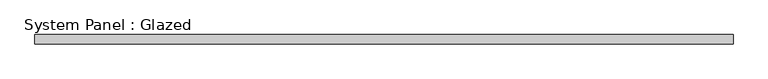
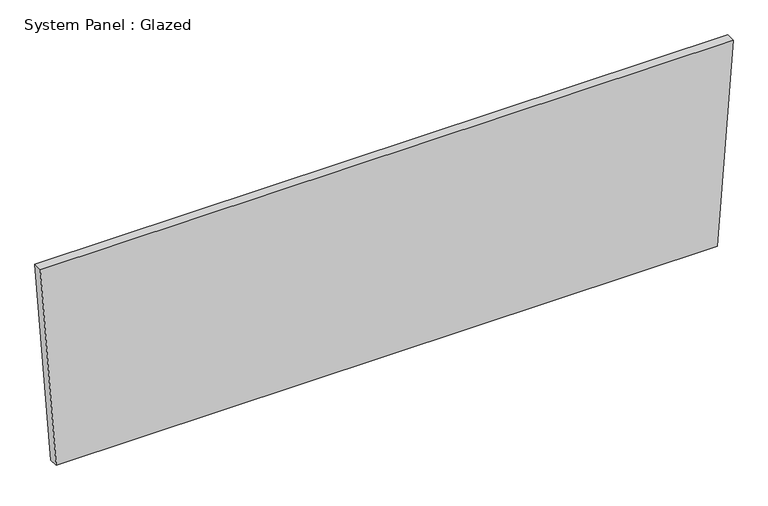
"""IFC4 building model written with IfcOpenShell, lengths in millimetres: plate geometry, System Panel : Glazed."""

import ifcopenshell
import ifcopenshell.guid

model = None  # the IFC model being written
_history = None  # IfcOwnerHistory: only IFC2X3 demands one
_inside = {}  # id of a spatial element -> (the spatial element, [elements in it])
_under = {}  # id of a project, library or spatial element -> (it, [spatial elements below it])
_declared = {}  # id of a project -> (the project, [libraries it declares])
_typed = {}  # id of a type object -> (the type object, [elements of that type])
_made_of = {}  # id of a material, layer set ... -> (it, [elements and type objects made of it])


def new_model(schema):
    """Start an empty IFC model of exactly this schema.

    Asked for "IFC4X3", IfcOpenShell would pick the latest addendum, in which some entities
    have other attributes; the version numbers below select the first issue.
    IFC2X3 requires an IfcOwnerHistory on every rooted entity: one is made here for all.
    """
    global model, _history
    if schema == "IFC4X3":
        model = ifcopenshell.file(schema_version=(4, 3, 0, 0))
    else:
        model = ifcopenshell.file(schema=schema)
    _inside.clear()
    _under.clear()
    _declared.clear()
    _typed.clear()
    _made_of.clear()
    _history = None
    if model.schema == "IFC2X3":
        org = make("IfcOrganization", Name="unknown")
        user = make(
            "IfcPersonAndOrganization",
            ThePerson=make("IfcPerson", FamilyName="unknown"),
            TheOrganization=org,
        )
        app = make(
            "IfcApplication",
            ApplicationDeveloper=org,
            Version="unknown",
            ApplicationFullName="unknown",
            ApplicationIdentifier="unknown",
        )
        _history = make(
            "IfcOwnerHistory",
            OwningUser=user,
            OwningApplication=app,
            ChangeAction="ADDED",
            CreationDate=0,
        )
    return model


def make(cls, **values):
    """One entity of the class cls with the attributes given. An attribute that is None is left unset."""
    return model.create_entity(
        cls, **{name: value for name, value in values.items() if value is not None}
    )


def rooted(cls, **values):
    """An entity with a GlobalId (a new one), such as an element, a storey or a relation."""
    return make(cls, GlobalId=ifcopenshell.guid.new(), OwnerHistory=_history, **values)


def si_unit(unit_type, name, prefix=None):
    """IfcSIUnit, for example si_unit("LENGTHUNIT", "METRE", prefix="MILLI")."""
    return make("IfcSIUnit", UnitType=unit_type, Prefix=prefix, Name=name)


def assignment(units):
    """IfcUnitAssignment: the units of a project."""
    return None if units is None else make("IfcUnitAssignment", Units=units)


def point(xyz):
    """IfcCartesianPoint."""
    return None if xyz is None else make("IfcCartesianPoint", Coordinates=xyz)


def direction(xyz):
    """IfcDirection."""
    return None if xyz is None else make("IfcDirection", DirectionRatios=xyz)


def frame(location, z_axis=None, x_axis=None):
    """IfcAxis2Placement3D, a coordinate frame: its origin and axes. An axis left out is left unset."""
    return make(
        "IfcAxis2Placement3D",
        Location=point(location),
        Axis=direction(z_axis),
        RefDirection=direction(x_axis),
    )


def origin():
    """The frame at (0, 0, 0) with its axes left unset."""
    return frame((0.0, 0.0, 0.0))


def place(relative_to, where):
    """IfcLocalPlacement: puts the frame where relative to a parent placement (None: the world)."""
    return make(
        "IfcLocalPlacement", PlacementRelTo=relative_to, RelativePlacement=where
    )


def context(
    kind, dimensions, precision=None, world=None, true_north=None, identifier=None
):
    """IfcGeometricRepresentationContext, for example the 3D "Model" context."""
    return make(
        "IfcGeometricRepresentationContext",
        ContextIdentifier=identifier,
        ContextType=kind,
        CoordinateSpaceDimension=dimensions,
        Precision=precision,
        WorldCoordinateSystem=world,
        TrueNorth=true_north,
    )


def project(units=None, contexts=None):
    """IfcProject with its units and contexts."""
    return rooted(
        "IfcProject",
        Name="project",
        RepresentationContexts=contexts,
        UnitsInContext=assignment(units),
    )


def spatial(cls, under=None, at=None, **own):
    """A site, building, storey or space (cls), placed at a placement, below another one or the project."""
    s = rooted(cls, ObjectPlacement=at, **own)
    if under is not None:
        _under.setdefault(under.id(), (under, []))[1].append(s)
    return s


def polyline(points):
    """IfcPolyline through the points."""
    return make("IfcPolyline", Points=[point(p) for p in points])


def outline(outer, holes=None, kind="AREA"):
    """IfcArbitraryClosedProfileDef: a profile drawn as a closed curve; with holes, ...WithVoids."""
    if holes is None:
        return make("IfcArbitraryClosedProfileDef", ProfileType=kind, OuterCurve=outer)
    return make(
        "IfcArbitraryProfileDefWithVoids",
        ProfileType=kind,
        OuterCurve=outer,
        InnerCurves=holes,
    )


def extrude(swept, where, along, depth):
    """IfcExtrudedAreaSolid: the profile swept, set in the frame where, extruded along a direction by depth."""
    return make(
        "IfcExtrudedAreaSolid",
        SweptArea=swept,
        Position=where,
        ExtrudedDirection=direction(along),
        Depth=depth,
    )


def shape(context_of_items, identifier, shape_type, items):
    """IfcShapeRepresentation: the items that make up one representation, for example the "Body"."""
    return make(
        "IfcShapeRepresentation",
        ContextOfItems=context_of_items,
        RepresentationIdentifier=identifier,
        RepresentationType=shape_type,
        Items=items,
    )


def source(mapping_origin, context_of_items, identifier, shape_type, items):
    """IfcRepresentationMap: a shape defined once, which mapped items show again and again."""
    return make(
        "IfcRepresentationMap",
        MappingOrigin=mapping_origin,
        MappedRepresentation=shape(context_of_items, identifier, shape_type, items),
    )


def transform(
    local_origin,
    x_axis=None,
    y_axis=None,
    z_axis=None,
    scale=None,
    scale2=None,
    scale3=None,
    uniform=True,
):
    """IfcCartesianTransformationOperator3D, or its non-uniform kind. x_axis, y_axis, z_axis: its Axis1, 2, 3."""
    if uniform:
        return make(
            "IfcCartesianTransformationOperator3D",
            Axis1=direction(x_axis),
            Axis2=direction(y_axis),
            LocalOrigin=point(local_origin),
            Scale=scale,
            Axis3=direction(z_axis),
        )
    return make(
        "IfcCartesianTransformationOperator3DnonUniform",
        Axis1=direction(x_axis),
        Axis2=direction(y_axis),
        LocalOrigin=point(local_origin),
        Scale=scale,
        Axis3=direction(z_axis),
        Scale2=scale2,
        Scale3=scale3,
    )


def mapped(mapping_source, mapping_target):
    """IfcMappedItem: shows the shape of a source again, moved by a transform."""
    return make(
        "IfcMappedItem", MappingSource=mapping_source, MappingTarget=mapping_target
    )


def made_of(thing, what):
    """Note that an element or type object is made of a material, layer set ...; save() writes the relation."""
    if what is not None:
        _made_of.setdefault(what.id(), (what, []))[1].append(thing)
    return thing


def element(
    cls,
    number,
    at=None,
    inside=None,
    cuts=None,
    type_object=None,
    material=None,
    context=None,
    identifier="Body",
    shape_type=None,
    held_by="IfcProductDefinitionShape",
    body=None,
    shapes=None,
    **own,
):
    """One element of the class cls, such as IfcWall. Its Tag is "e" and its number.

    at: its placement. inside: the storey or other place that contains it. cuts: it is an
    opening in that element (IfcRelVoidsElement). A single representation is given by context,
    identifier, shape_type and body (its items); several are given by shapes. held_by: the class
    of the entity that holds the representations. save() writes the other relations.
    """
    e = rooted(cls, Tag="e%d" % number, ObjectPlacement=at, **own)
    if body is not None:
        shapes = [shape(context, identifier, shape_type, body)]
    if shapes is not None:
        e.Representation = make(held_by, Representations=shapes)
    if inside is not None:
        _inside.setdefault(inside.id(), (inside, []))[1].append(e)
    if cuts is not None:
        rooted(
            "IfcRelVoidsElement", RelatingBuildingElement=cuts, RelatedOpeningElement=e
        )
    if type_object is not None:
        _typed.setdefault(type_object.id(), (type_object, []))[1].append(e)
    return made_of(e, material)


def aggregate(whole, parts):
    """IfcRelAggregates: a whole, such as a stair, and the parts it consists of."""
    return rooted("IfcRelAggregates", RelatingObject=whole, RelatedObjects=parts)


def save(model, path):
    """Write the relations noted so far, then the file.

    IfcRelAggregates (storeys below a building ...), IfcRelContainedInSpatialStructure (elements
    in a storey), IfcRelDefinesByType, IfcRelAssociatesMaterial and IfcRelDeclares: one each for
    every whole, place, type object, material and project.
    """
    for whole, parts in _under.values():
        aggregate(whole, parts)
    for where, things in _inside.values():
        rooted(
            "IfcRelContainedInSpatialStructure",
            RelatedElements=things,
            RelatingStructure=where,
        )
    for kind, things in _typed.values():
        rooted("IfcRelDefinesByType", RelatedObjects=things, RelatingType=kind)
    for what, things in _made_of.values():
        rooted("IfcRelAssociatesMaterial", RelatedObjects=things, RelatingMaterial=what)
    for by, libraries in _declared.values():
        rooted("IfcRelDeclares", RelatingContext=by, RelatedDefinitions=libraries)
    model.write(path)


def system_panel_glazed_82ed8812(model_context):
    return source(origin(), model_context, "Body", "SweptSolid", [
        extrude(outline(polyline([(0.0, -906.3646509), (0.0, 906.3646509), (582.5097319, 949.8334971), (582.5097319, -949.8334971), (0.0, -906.3646509)])), frame((0.0, 19.05, 0.0), z_axis=(0.0, 1.0, 0.0), x_axis=(0.0, 0.0, 1.0)), (0.0, 0.0, 1.0), 25.4),
    ])


if __name__ == "__main__":
    model = new_model("IFC4")
    model_context = context("Model", 3, world=origin())
    ifc_project = project(units=[si_unit("LENGTHUNIT", "METRE", prefix="MILLI")], contexts=[model_context])
    site = spatial("IfcSite", under=ifc_project)
    building = spatial("IfcBuilding", under=site)
    placement = place(None, origin())
    system_panel_glazed_shape = system_panel_glazed_82ed8812(model_context)
    element("IfcPlate", 1, ObjectType="System Panel : Glazed", at=placement, inside=building, context=model_context, shape_type="MappedRepresentation", body=[
        mapped(system_panel_glazed_shape, transform((0.0, 0.0, 0.0), x_axis=(1.0, 0.0, 0.0), y_axis=(0.0, 1.0, 0.0), z_axis=(0.0, 0.0, 1.0))),
    ])
    save(model, "model.ifc")
